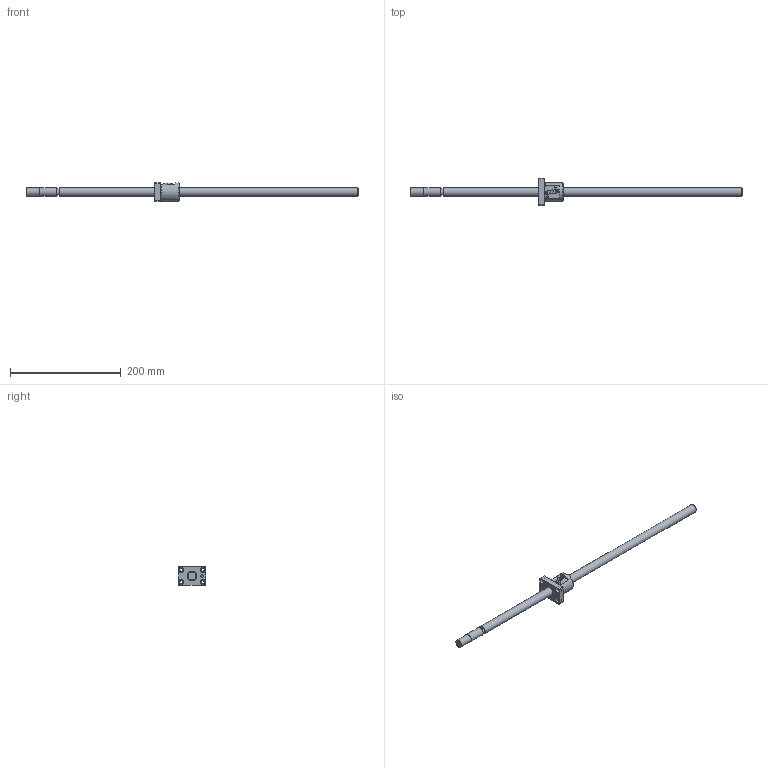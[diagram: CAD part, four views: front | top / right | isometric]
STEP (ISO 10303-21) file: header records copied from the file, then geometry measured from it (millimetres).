
FILE_DESCRIPTION (( 'STEP AP214' ), '1' );
FILE_NAME ('KBS(C)1505-600.STEP', '2021-07-05T02:09:58', ( '' ), ( '' ), 'SwSTEP 2.0', 'SolidWorks 2019', '' );
FILE_SCHEMA (( 'AUTOMOTIVE_DESIGN' ));
Length unit declared in the file: millimetre
Products named in the file (3): KBS1505; KBS(C)1505-600; KBS1505-600
Assembly tree (2 placements, depth 2):
  KBS(C)1505-600
    KBS1505-600
    KBS1505
Bounding box: 600 x 50 x 34 mm (x, y, z)
Volume: 141163 mm3; surface area: 40454.9 mm2
Topology: 2 solids, 2 shells, 103 faces, 262 edges, 173 vertices
Faces by surface type: plane 55, cylinder 40, cone 4, torus 4
Full cylindrical faces by diameter (mm): 3.2 x1, 5 x1, 5.5 x4, 5.6 x2, 9.5 x4, 12.5 x1, 14.5 x1, 15 x3, 17 x2, 34 x1
Entity records: 3305 total; most frequent: CARTESIAN_POINT 870, DIRECTION 464, ORIENTED_EDGE 448, EDGE_CURVE 224, AXIS2_PLACEMENT_3D 176, VERTEX_POINT 164, EDGE_LOOP 158, FACE_OUTER_BOUND 127
